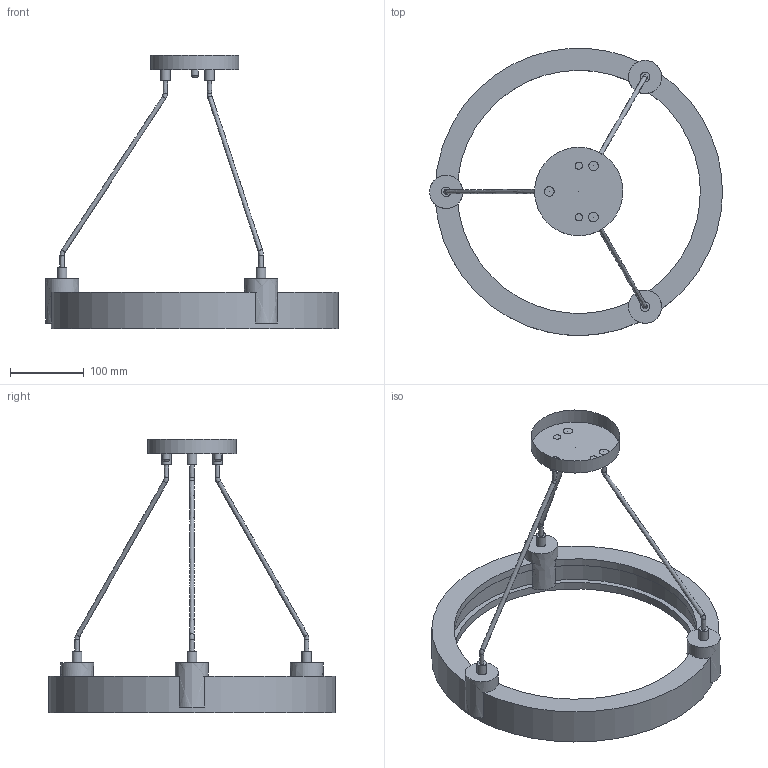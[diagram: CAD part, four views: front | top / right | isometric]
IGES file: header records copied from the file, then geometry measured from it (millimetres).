
Global section: file name: Z:\; native system: Rhinoceros ( Nov 10 2025 ); preprocessor: Trout Lake IGES 012 Nov 10 2025; date: 260610.105835; units: millimetre
Bounding box: 397.48 x 389.58 x 371.67 mm (x, y, z)
Surface area: 262193.5 mm2 (no closed solid volume)
Topology: 0 solids, 0 shells, 72 faces, 282 edges, 230 vertices
Faces by surface type: bspline 72
